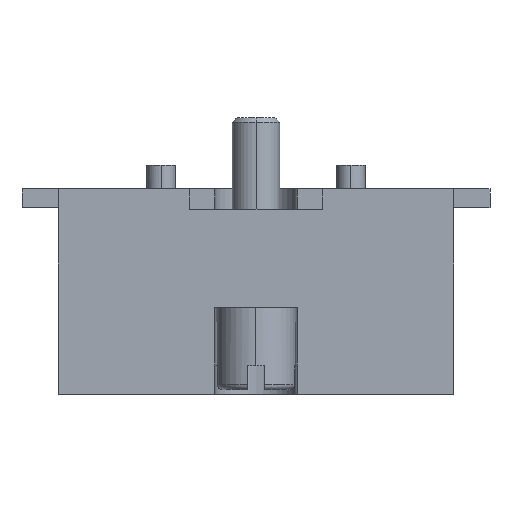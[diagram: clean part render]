
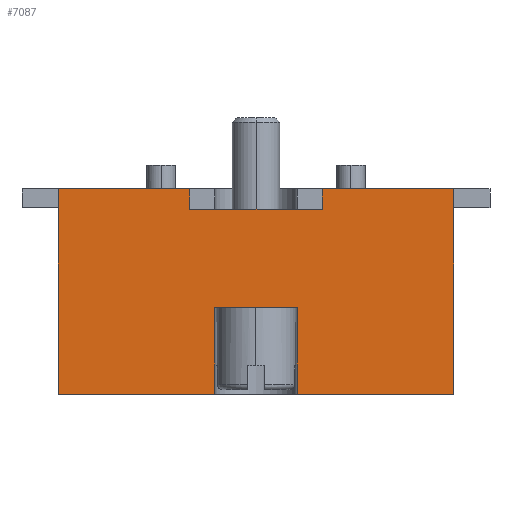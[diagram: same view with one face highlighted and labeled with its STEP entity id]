
A CAD part, left-side view. The second image highlights one B-rep face of the part: STEP entity #7087.
In plain terms, the highlighted planar face has unit normal (-1, 0, 0).
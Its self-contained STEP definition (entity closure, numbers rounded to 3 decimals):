
#154 = CARTESIAN_POINT ( 'NONE',  ( -15., 4.2, 13. ) ) ;
#167 = CARTESIAN_POINT ( 'NONE',  ( -15., -2.6, 13. ) ) ;
#266 = EDGE_CURVE ( 'NONE', #2449, #6553, #7472, .T. ) ;
#280 = ORIENTED_EDGE ( 'NONE', *, *, #1357, .F. ) ;
#394 = LINE ( 'NONE', #598, #443 ) ;
#406 = ORIENTED_EDGE ( 'NONE', *, *, #1047, .F. ) ;
#417 = CARTESIAN_POINT ( 'NONE',  ( -15., -12.5, 13. ) ) ;
#443 = VECTOR ( 'NONE', #7523, 1000. ) ;
#535 = VECTOR ( 'NONE', #3118, 1000. ) ;
#598 = CARTESIAN_POINT ( 'NONE',  ( -15., -6., 5.5 ) ) ;
#744 = CARTESIAN_POINT ( 'NONE',  ( -15., -4.2, 11.7 ) ) ;
#825 = PLANE ( 'NONE',  #4308 ) ;
#956 = ORIENTED_EDGE ( 'NONE', *, *, #5331, .T. ) ;
#1047 = EDGE_CURVE ( 'NONE', #6553, #3772, #394, .T. ) ;
#1129 = LINE ( 'NONE', #5882, #1367 ) ;
#1254 = EDGE_CURVE ( 'NONE', #2449, #6678, #3369, .T. ) ;
#1344 = DIRECTION ( 'NONE',  ( 0., 0., 1. ) ) ;
#1357 = EDGE_CURVE ( 'NONE', #6828, #1927, #2876, .T. ) ;
#1367 = VECTOR ( 'NONE', #2115, 1000. ) ;
#1487 = EDGE_CURVE ( 'NONE', #3772, #2094, #2371, .T. ) ;
#1609 = CARTESIAN_POINT ( 'NONE',  ( -15., 12.5, 13. ) ) ;
#1806 = DIRECTION ( 'NONE',  ( 0., 0., -1. ) ) ;
#1927 = VERTEX_POINT ( 'NONE', #417 ) ;
#1957 = LINE ( 'NONE', #3285, #6784 ) ;
#1971 = CARTESIAN_POINT ( 'NONE',  ( -15., -6., 0. ) ) ;
#2094 = VERTEX_POINT ( 'NONE', #7583 ) ;
#2115 = DIRECTION ( 'NONE',  ( 0., -1., 0. ) ) ;
#2130 = CARTESIAN_POINT ( 'NONE',  ( -15., -6., 13. ) ) ;
#2310 = VECTOR ( 'NONE', #4038, 1000. ) ;
#2355 = CARTESIAN_POINT ( 'NONE',  ( -15., -6., 13. ) ) ;
#2371 = LINE ( 'NONE', #6339, #2652 ) ;
#2449 = VERTEX_POINT ( 'NONE', #7473 ) ;
#2465 = CARTESIAN_POINT ( 'NONE',  ( -15., 2.6, 5.5 ) ) ;
#2629 = VERTEX_POINT ( 'NONE', #4294 ) ;
#2652 = VECTOR ( 'NONE', #1806, 1000. ) ;
#2722 = DIRECTION ( 'NONE',  ( 1., 0., 0. ) ) ;
#2862 = ORIENTED_EDGE ( 'NONE', *, *, #4674, .F. ) ;
#2876 = LINE ( 'NONE', #2882, #2310 ) ;
#2882 = CARTESIAN_POINT ( 'NONE',  ( -15., -6., 13. ) ) ;
#2918 = VECTOR ( 'NONE', #6429, 1000. ) ;
#2923 = CARTESIAN_POINT ( 'NONE',  ( -15., -4.2, 11.7 ) ) ;
#2955 = VERTEX_POINT ( 'NONE', #154 ) ;
#2963 = DIRECTION ( 'NONE',  ( 0., -1., 0. ) ) ;
#3075 = CARTESIAN_POINT ( 'NONE',  ( -15., 12.5, 0. ) ) ;
#3118 = DIRECTION ( 'NONE',  ( 0., 0., 1. ) ) ;
#3285 = CARTESIAN_POINT ( 'NONE',  ( -15., -4.2, 11.7 ) ) ;
#3369 = LINE ( 'NONE', #1971, #7499 ) ;
#3391 = LINE ( 'NONE', #2355, #6774 ) ;
#3772 = VERTEX_POINT ( 'NONE', #2465 ) ;
#4006 = CARTESIAN_POINT ( 'NONE',  ( -15., -12.5, 0. ) ) ;
#4038 = DIRECTION ( 'NONE',  ( 0., -1., 0. ) ) ;
#4115 = EDGE_CURVE ( 'NONE', #5563, #2629, #7723, .T. ) ;
#4289 = VERTEX_POINT ( 'NONE', #3075 ) ;
#4294 = CARTESIAN_POINT ( 'NONE',  ( -15., 4.2, 11.7 ) ) ;
#4308 = AXIS2_PLACEMENT_3D ( 'NONE', #2130, #2722, #7186 ) ;
#4530 = DIRECTION ( 'NONE',  ( 0., 1., 0. ) ) ;
#4674 = EDGE_CURVE ( 'NONE', #4289, #6041, #5481, .T. ) ;
#5004 = LINE ( 'NONE', #5772, #2918 ) ;
#5306 = ORIENTED_EDGE ( 'NONE', *, *, #1254, .T. ) ;
#5331 = EDGE_CURVE ( 'NONE', #4289, #2094, #1129, .T. ) ;
#5481 = LINE ( 'NONE', #6923, #535 ) ;
#5537 = ORIENTED_EDGE ( 'NONE', *, *, #266, .F. ) ;
#5563 = VERTEX_POINT ( 'NONE', #2923 ) ;
#5731 = DIRECTION ( 'NONE',  ( 0., -1., 0. ) ) ;
#5772 = CARTESIAN_POINT ( 'NONE',  ( -15., -12.5, 0. ) ) ;
#5828 = EDGE_LOOP ( 'NONE', ( #6441, #406, #5537, #5306, #7214, #280, #6020, #8080, #7368, #8065, #2862, #956 ) ) ;
#5848 = EDGE_CURVE ( 'NONE', #2629, #2955, #7610, .T. ) ;
#5882 = CARTESIAN_POINT ( 'NONE',  ( -15., -6., 0. ) ) ;
#6020 = ORIENTED_EDGE ( 'NONE', *, *, #7025, .F. ) ;
#6041 = VERTEX_POINT ( 'NONE', #1609 ) ;
#6201 = DIRECTION ( 'NONE',  ( 0., 0., 1. ) ) ;
#6240 = EDGE_CURVE ( 'NONE', #6041, #2955, #3391, .T. ) ;
#6339 = CARTESIAN_POINT ( 'NONE',  ( -15., 2.6, 13. ) ) ;
#6429 = DIRECTION ( 'NONE',  ( 0., 0., 1. ) ) ;
#6441 = ORIENTED_EDGE ( 'NONE', *, *, #1487, .F. ) ;
#6457 = CARTESIAN_POINT ( 'NONE',  ( -15., -2.6, 5.5 ) ) ;
#6553 = VERTEX_POINT ( 'NONE', #6457 ) ;
#6678 = VERTEX_POINT ( 'NONE', #4006 ) ;
#6774 = VECTOR ( 'NONE', #2963, 1000. ) ;
#6784 = VECTOR ( 'NONE', #7672, 1000. ) ;
#6787 = VECTOR ( 'NONE', #4530, 1000. ) ;
#6828 = VERTEX_POINT ( 'NONE', #7307 ) ;
#6923 = CARTESIAN_POINT ( 'NONE',  ( -15., 12.5, 0. ) ) ;
#6994 = CARTESIAN_POINT ( 'NONE',  ( -15., 4.2, 11.7 ) ) ;
#7025 = EDGE_CURVE ( 'NONE', #5563, #6828, #1957, .T. ) ;
#7087 = ADVANCED_FACE ( 'NONE', ( #7553 ), #825, .F. ) ;
#7186 = DIRECTION ( 'NONE',  ( 0., 0., -1. ) ) ;
#7214 = ORIENTED_EDGE ( 'NONE', *, *, #7702, .T. ) ;
#7307 = CARTESIAN_POINT ( 'NONE',  ( -15., -4.2, 13. ) ) ;
#7336 = VECTOR ( 'NONE', #6201, 1000. ) ;
#7368 = ORIENTED_EDGE ( 'NONE', *, *, #5848, .T. ) ;
#7450 = VECTOR ( 'NONE', #1344, 1000. ) ;
#7472 = LINE ( 'NONE', #167, #7336 ) ;
#7473 = CARTESIAN_POINT ( 'NONE',  ( -15., -2.6, 0. ) ) ;
#7499 = VECTOR ( 'NONE', #5731, 1000. ) ;
#7523 = DIRECTION ( 'NONE',  ( 0., 1., 0. ) ) ;
#7553 = FACE_OUTER_BOUND ( 'NONE', #5828, .T. ) ;
#7583 = CARTESIAN_POINT ( 'NONE',  ( -15., 2.6, 0. ) ) ;
#7610 = LINE ( 'NONE', #6994, #7450 ) ;
#7672 = DIRECTION ( 'NONE',  ( 0., 0., 1. ) ) ;
#7702 = EDGE_CURVE ( 'NONE', #6678, #1927, #5004, .T. ) ;
#7723 = LINE ( 'NONE', #744, #6787 ) ;
#8065 = ORIENTED_EDGE ( 'NONE', *, *, #6240, .F. ) ;
#8080 = ORIENTED_EDGE ( 'NONE', *, *, #4115, .T. ) ;
